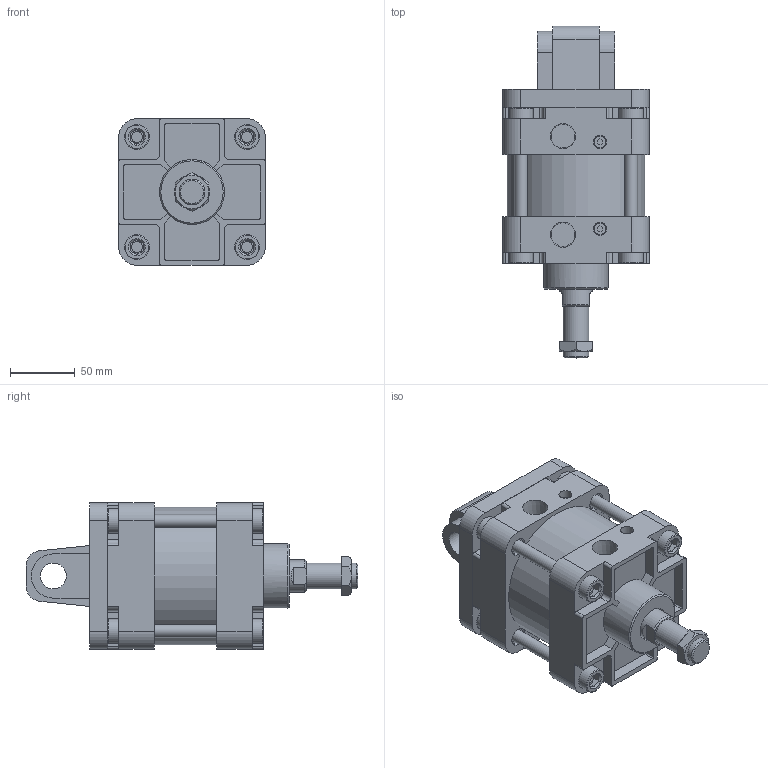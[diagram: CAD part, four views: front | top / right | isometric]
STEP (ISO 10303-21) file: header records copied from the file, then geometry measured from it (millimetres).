
FILE_DESCRIPTION(/* description */ ('Unknown'),/* implementation_level */ '2;1');
FILE_NAME(/* name */ 'WA100-0-CA',/* time_stamp */ '2026-07-17T16:57:21+08:00',/* author */ ('Unknown'),/* organization */ ('Unknown'),/* preprocessor_version */ 'ST-DEVELOPER v16.7',/* originating_system */ 'DEX',/* authorisation */ $);
FILE_SCHEMA (('CONFIG_CONTROL_DESIGN'));
Length unit declared in the file: millimetre
Products named in the file (8): WA100-0-CA; WA100_玡嶈搵; WA100_後0; WA100_鋁4; WA100_､ﾟｶbｬ｡ﾃ_;m^XD}; M20-1.5P-8_Á³Traditional)_Taiwan.950; WA100_T帽牙; WA100_CA
Assembly tree (10 placements, depth 2):
  WA100-0-CA
    WA100_玡嶈搵
    WA100_後0
    WA100_鋁4
    WA100_､ﾟｶbｬ｡ﾃ_;m^XD}
    M20-1.5P-8_Á³Traditional)_Taiwan.950
    WA100_T帽牙  x4
    WA100_CA
Bounding box: 113 x 256 x 113 mm (x, y, z)
Volume: 1507607.7 mm3; surface area: 254064.2 mm2
Topology: 10 solids, 10 shells, 391 faces, 953 edges, 636 vertices
Faces by surface type: plane 240, cylinder 120, cone 23, torus 8
Full cylindrical faces by diameter (mm): 8.5 x8, 9 x2, 10 x6, 11 x4, 14 x8, 14.2 x8, 17 x4, 18.376 x1, 19 x8, 20 x2, 25 x2, 26 x1, 50 x1, 99.5 x1, 100 x3, 106 x1
Entity records: 10378 total; most frequent: CARTESIAN_POINT 1565, DIRECTION 1482, ORIENTED_EDGE 1340, EDGE_CURVE 670, AXIS2_PLACEMENT_3D 537, VERTEX_POINT 472, LINE 408, VECTOR 408
